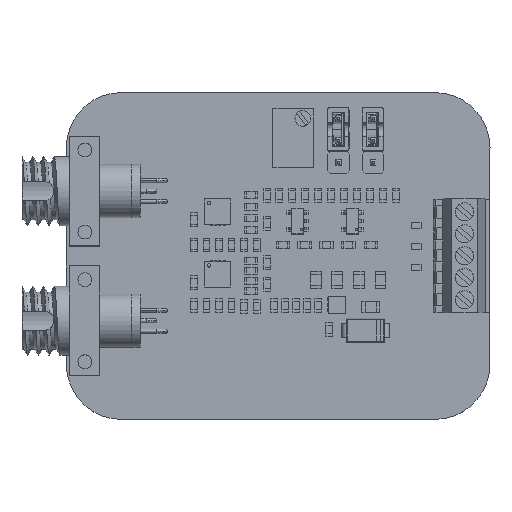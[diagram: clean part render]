
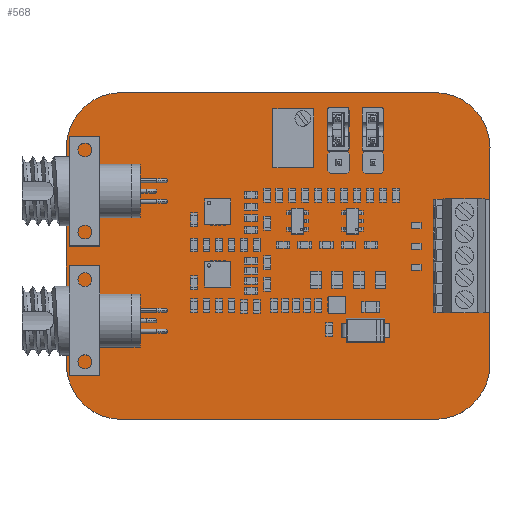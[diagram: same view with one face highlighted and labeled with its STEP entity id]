
A CAD part, top view. The second image highlights one B-rep face of the part: STEP entity #568.
In plain terms, the highlighted planar face has unit normal (0, 0, 1).
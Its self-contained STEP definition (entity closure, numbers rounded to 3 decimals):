
#303 = VERTEX_POINT('',#304);
#304 = CARTESIAN_POINT('',(0.,-31.4,0.)
  );
#310 = EDGE_CURVE('',#303,#311,#313,.T.);
#311 = VERTEX_POINT('',#312);
#312 = CARTESIAN_POINT('',(-0.001,-6.4,0.)
  );
#313 = LINE('',#314,#315);
#314 = CARTESIAN_POINT('',(0.,-31.4,0.));
#315 = VECTOR('',#316,1.);
#316 = DIRECTION('',(0.,1.,0.));
#341 = EDGE_CURVE('',#311,#342,#344,.T.);
#342 = VERTEX_POINT('',#343);
#343 = CARTESIAN_POINT('',(6.399,0.,0.));
#344 = CIRCLE('',#345,6.402);
#345 = AXIS2_PLACEMENT_3D('',#346,#347,#348);
#346 = CARTESIAN_POINT('',(6.401,-6.402,0.));
#347 = DIRECTION('',(0.,0.,-1.));
#348 = DIRECTION('',(-1.,0.,0.));
#374 = EDGE_CURVE('',#342,#375,#377,.T.);
#375 = VERTEX_POINT('',#376);
#376 = CARTESIAN_POINT('',(42.599,0.001,0.)
  );
#377 = LINE('',#378,#379);
#378 = CARTESIAN_POINT('',(6.399,0.,0.));
#379 = VECTOR('',#380,1.);
#380 = DIRECTION('',(1.,0.,0.));
#405 = EDGE_CURVE('',#375,#406,#408,.T.);
#406 = VERTEX_POINT('',#407);
#407 = CARTESIAN_POINT('',(49.,-6.4,0.));
#408 = CIRCLE('',#409,6.402);
#409 = AXIS2_PLACEMENT_3D('',#410,#411,#412);
#410 = CARTESIAN_POINT('',(42.598,-6.401,0.));
#411 = DIRECTION('',(0.,0.,-1.));
#412 = DIRECTION('',(0.,1.,0.));
#438 = EDGE_CURVE('',#406,#439,#441,.T.);
#439 = VERTEX_POINT('',#440);
#440 = CARTESIAN_POINT('',(48.999,-31.4,0.));
#441 = LINE('',#442,#443);
#442 = CARTESIAN_POINT('',(49.,-6.4,0.));
#443 = VECTOR('',#444,1.);
#444 = DIRECTION('',(0.,-1.,0.));
#469 = EDGE_CURVE('',#439,#470,#472,.T.);
#470 = VERTEX_POINT('',#471);
#471 = CARTESIAN_POINT('',(42.599,-37.8,0.));
#472 = CIRCLE('',#473,6.4);
#473 = AXIS2_PLACEMENT_3D('',#474,#475,#476);
#474 = CARTESIAN_POINT('',(42.599,-31.4,0.));
#475 = DIRECTION('',(0.,0.,-1.));
#476 = DIRECTION('',(1.,0.,0.));
#502 = EDGE_CURVE('',#470,#503,#505,.T.);
#503 = VERTEX_POINT('',#504);
#504 = CARTESIAN_POINT('',(6.399,-37.8,0.));
#505 = LINE('',#506,#507);
#506 = CARTESIAN_POINT('',(42.599,-37.8,0.));
#507 = VECTOR('',#508,1.);
#508 = DIRECTION('',(-1.,0.,0.));
#533 = EDGE_CURVE('',#503,#303,#534,.T.);
#534 = CIRCLE('',#535,6.4);
#535 = AXIS2_PLACEMENT_3D('',#536,#537,#538);
#536 = CARTESIAN_POINT('',(6.4,-31.4,0.));
#537 = DIRECTION('',(0.,0.,-1.));
#538 = DIRECTION('',(0.,-1.,0.));
#568 = ADVANCED_FACE('',(#569),#579,.T.);
#569 = FACE_BOUND('',#570,.F.);
#570 = EDGE_LOOP('',(#571,#572,#573,#574,#575,#576,#577,#578));
#571 = ORIENTED_EDGE('',*,*,#310,.T.);
#572 = ORIENTED_EDGE('',*,*,#341,.T.);
#573 = ORIENTED_EDGE('',*,*,#374,.T.);
#574 = ORIENTED_EDGE('',*,*,#405,.T.);
#575 = ORIENTED_EDGE('',*,*,#438,.T.);
#576 = ORIENTED_EDGE('',*,*,#469,.T.);
#577 = ORIENTED_EDGE('',*,*,#502,.T.);
#578 = ORIENTED_EDGE('',*,*,#533,.T.);
#579 = PLANE('',#580);
#580 = AXIS2_PLACEMENT_3D('',#581,#582,#583);
#581 = CARTESIAN_POINT('',(0.,-31.4,0.));
#582 = DIRECTION('',(0.,0.,1.));
#583 = DIRECTION('',(1.,0.,0.));
